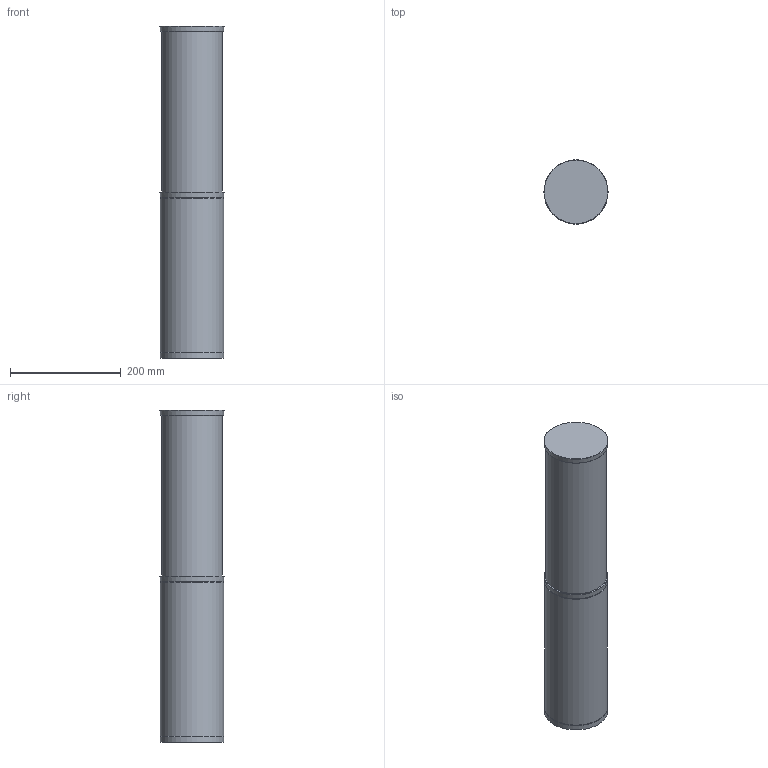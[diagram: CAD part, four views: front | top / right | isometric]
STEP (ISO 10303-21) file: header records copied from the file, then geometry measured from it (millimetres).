
FILE_DESCRIPTION(/* description */ (''),/* implementation_level */ '2;1');
FILE_NAME(/* name */ 'Lester 600 mm.step',/* time_stamp */ '2026-07-23T23:27:12+03:00',/* author */ (''),/* organization */ (''),/* preprocessor_version */ 'ST-DEVELOPER v20.1',/* originating_system */ 'Autodesk Translation Framework v15.8.0.0',/* authorisation */ '');
FILE_SCHEMA (('AUTOMOTIVE_DESIGN { 1 0 10303 214 3 1 1 }'));
Length unit declared in the file: millimetre
Products named in the file (1): Lester 600 mm
Bounding box: 115.89 x 115.89 x 600 mm (x, y, z)
Volume: 5910855.8 mm3; surface area: 310731.2 mm2
Topology: 12 solids, 12 shells, 121 faces, 281 edges, 186 vertices
Faces by surface type: cylinder 64, plane 50, torus 5, cone 2
Full cylindrical faces by diameter (mm): 5 x3, 8 x1, 12 x3, 15 x2, 104.365 x2, 110 x1, 113.5 x1, 114 x3
Entity records: 3588 total; most frequent: DIRECTION 668, CARTESIAN_POINT 589, ORIENTED_EDGE 562, EDGE_CURVE 281, AXIS2_PLACEMENT_3D 265, VERTEX_POINT 186, EDGE_LOOP 153, CIRCLE 143
